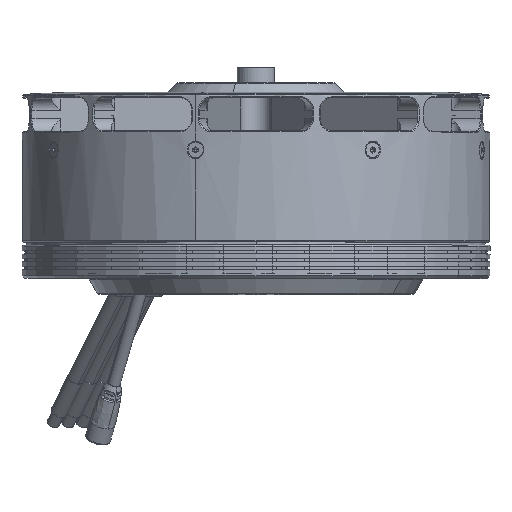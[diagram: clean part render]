
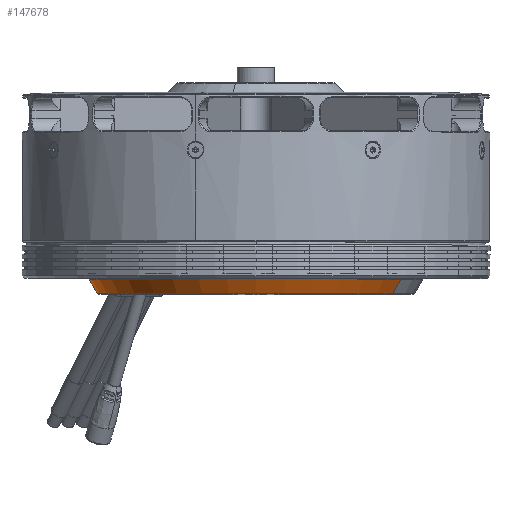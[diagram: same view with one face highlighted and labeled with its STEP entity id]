
A CAD part, top view. The second image highlights one B-rep face of the part: STEP entity #147678.
In plain terms, the highlighted conical face has half-angle 30 degrees and reference radius 50.144 mm.
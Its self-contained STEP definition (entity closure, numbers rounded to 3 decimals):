
#475 = VECTOR ( 'NONE', #167924, 1000. ) ;
#1034 = LINE ( 'NONE', #97818, #172902 ) ;
#1054 = DIRECTION ( 'NONE',  ( 0., -1., 0. ) ) ;
#1131 = VERTEX_POINT ( 'NONE', #77189 ) ;
#6849 = EDGE_CURVE ( 'NONE', #1131, #42014, #212809, .T. ) ;
#25491 = CARTESIAN_POINT ( 'NONE',  ( 0., -3.95, 0. ) ) ;
#42014 = VERTEX_POINT ( 'NONE', #193458 ) ;
#42688 = AXIS2_PLACEMENT_3D ( 'NONE', #207581, #1054, #52256 ) ;
#42780 = AXIS2_PLACEMENT_3D ( 'NONE', #25491, #74501, #190002 ) ;
#52256 = DIRECTION ( 'NONE',  ( 0.866, 0., 0.5 ) ) ;
#52577 = DIRECTION ( 'NONE',  ( -0.866, 0., -0.5 ) ) ;
#72203 = ORIENTED_EDGE ( 'NONE', *, *, #90048, .T. ) ;
#74501 = DIRECTION ( 'NONE',  ( 0., -1., 0. ) ) ;
#74919 = AXIS2_PLACEMENT_3D ( 'NONE', #77118, #101454, #52577 ) ;
#77118 = CARTESIAN_POINT ( 'NONE',  ( 0., -8.45, 0. ) ) ;
#77189 = CARTESIAN_POINT ( 'NONE',  ( 43.426, -8.45, 25.072 ) ) ;
#86960 = VERTEX_POINT ( 'NONE', #159700 ) ;
#88898 = CIRCLE ( 'NONE', #42780, 52.742 ) ;
#90048 = EDGE_CURVE ( 'NONE', #86960, #101645, #88898, .T. ) ;
#93528 = EDGE_LOOP ( 'NONE', ( #201724, #137827, #72203, #184727 ) ) ;
#97818 = CARTESIAN_POINT ( 'NONE',  ( 43.426, -8.45, 25.072 ) ) ;
#101454 = DIRECTION ( 'NONE',  ( 0., 1., 0. ) ) ;
#101645 = VERTEX_POINT ( 'NONE', #205728 ) ;
#137827 = ORIENTED_EDGE ( 'NONE', *, *, #210960, .T. ) ;
#147678 = ADVANCED_FACE ( 'NONE', ( #161527 ), #209539, .T. ) ;
#159700 = CARTESIAN_POINT ( 'NONE',  ( 45.676, -3.95, 26.371 ) ) ;
#161527 = FACE_OUTER_BOUND ( 'NONE', #93528, .T. ) ;
#166116 = EDGE_CURVE ( 'NONE', #42014, #101645, #169007, .T. ) ;
#167924 = DIRECTION ( 'NONE',  ( -0.433, 0.866, -0.25 ) ) ;
#169007 = LINE ( 'NONE', #182341, #475 ) ;
#172902 = VECTOR ( 'NONE', #202157, 1000. ) ;
#182341 = CARTESIAN_POINT ( 'NONE',  ( -43.426, -8.45, -25.072 ) ) ;
#184727 = ORIENTED_EDGE ( 'NONE', *, *, #166116, .F. ) ;
#190002 = DIRECTION ( 'NONE',  ( 0.866, 0., 0.5 ) ) ;
#193458 = CARTESIAN_POINT ( 'NONE',  ( -43.426, -8.45, -25.072 ) ) ;
#201724 = ORIENTED_EDGE ( 'NONE', *, *, #6849, .F. ) ;
#202157 = DIRECTION ( 'NONE',  ( 0.433, 0.866, 0.25 ) ) ;
#205728 = CARTESIAN_POINT ( 'NONE',  ( -45.676, -3.95, -26.371 ) ) ;
#207581 = CARTESIAN_POINT ( 'NONE',  ( 0., -8.45, 0. ) ) ;
#209539 = CONICAL_SURFACE ( 'NONE', #74919, 50.144, 0.524 ) ;
#210960 = EDGE_CURVE ( 'NONE', #1131, #86960, #1034, .T. ) ;
#212809 = CIRCLE ( 'NONE', #42688, 50.144 ) ;
